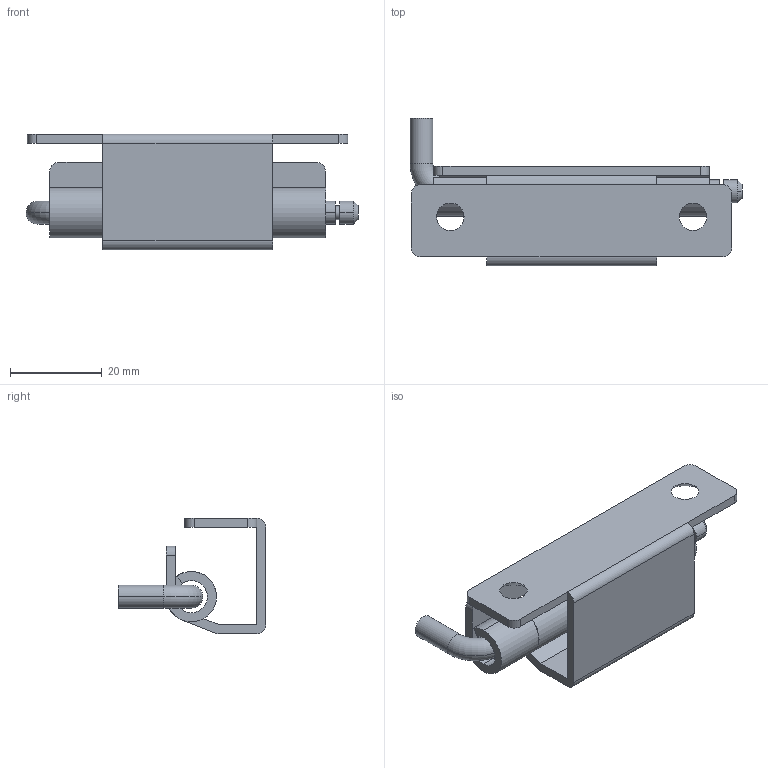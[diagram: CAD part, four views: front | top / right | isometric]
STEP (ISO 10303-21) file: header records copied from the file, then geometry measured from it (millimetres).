
FILE_DESCRIPTION (( 'STEP AP203' ), '1' );
FILE_NAME ('XG02-062-1.STEP', '2023-12-09T02:39:03', ( '' ), ( '' ), 'SwSTEP 2.0', 'SolidWorks 2020', '' );
FILE_SCHEMA (( 'CONFIG_CONTROL_DESIGN' ));
Length unit declared in the file: millimetre
Products named in the file (1): XG02-062-1
Bounding box: 72.5 x 32.3 x 25.25 mm (x, y, z)
Volume: 10413.4 mm3; surface area: 11373.3 mm2
Topology: 3 solids, 3 shells, 69 faces, 175 edges, 114 vertices
Faces by surface type: cylinder 31, plane 30, cone 6, torus 2
Entity records: 2182 total; most frequent: DIRECTION 391, CARTESIAN_POINT 359, ORIENTED_EDGE 350, EDGE_CURVE 175, AXIS2_PLACEMENT_3D 146, VERTEX_POINT 114, LINE 99, VECTOR 99
